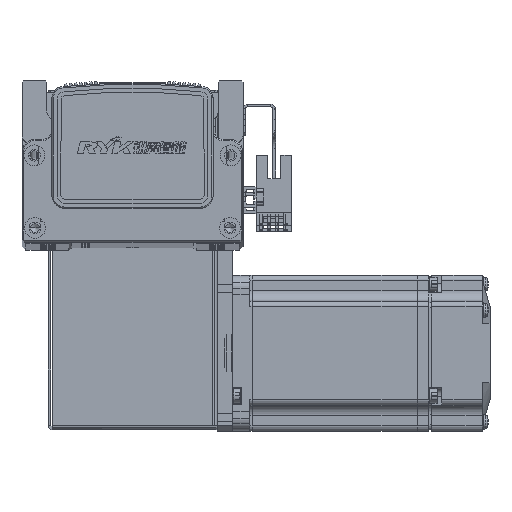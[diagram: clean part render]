
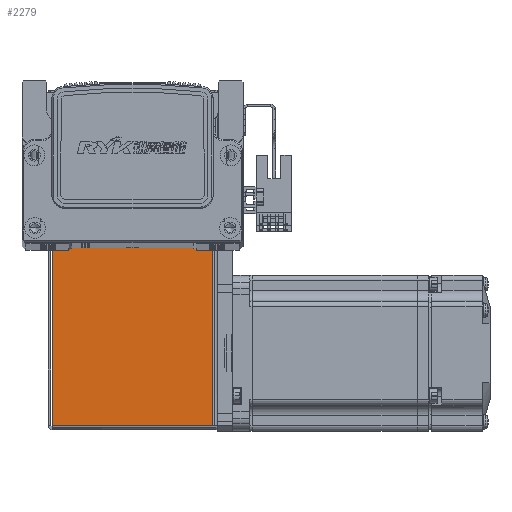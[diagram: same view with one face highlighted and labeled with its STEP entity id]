
A CAD part, top view. The second image highlights one B-rep face of the part: STEP entity #2279.
In plain terms, the highlighted planar face has unit normal (0, 0, 1).
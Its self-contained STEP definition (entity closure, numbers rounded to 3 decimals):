
#2279 = ADVANCED_FACE ( 'NONE', ( #64909 ), #6015, .F. ) ;
#6007 = DIRECTION ( 'NONE',  ( 0., 0., -1. ) ) ;
#6015 = PLANE ( 'NONE',  #68529 ) ;
#6019 = CARTESIAN_POINT ( 'NONE',  ( 0., 0., 35. ) ) ;
#6061 = DIRECTION ( 'NONE',  ( -1., 0., 0. ) ) ;
#29574 = EDGE_LOOP ( 'NONE', ( #75264, #75249, #75371, #75311 ) ) ;
#41227 = EDGE_CURVE ( 'NONE', #55133, #54935, #45739, .T. ) ;
#41283 = EDGE_CURVE ( 'NONE', #55133, #55019, #45820, .T. ) ;
#41302 = EDGE_CURVE ( 'NONE', #55019, #54968, #45811, .T. ) ;
#41309 = EDGE_CURVE ( 'NONE', #54935, #54968, #45804, .T. ) ;
#45739 = LINE ( 'NONE', #55816, #45775 ) ;
#45775 = VECTOR ( 'NONE', #55875, 1000. ) ;
#45781 = VECTOR ( 'NONE', #55984, 1000. ) ;
#45804 = LINE ( 'NONE', #56028, #45829 ) ;
#45811 = LINE ( 'NONE', #56064, #45822 ) ;
#45820 = LINE ( 'NONE', #55900, #45781 ) ;
#45822 = VECTOR ( 'NONE', #56061, 1000. ) ;
#45829 = VECTOR ( 'NONE', #55995, 1000. ) ;
#54935 = VERTEX_POINT ( 'NONE', #73218 ) ;
#54968 = VERTEX_POINT ( 'NONE', #73250 ) ;
#55019 = VERTEX_POINT ( 'NONE', #73312 ) ;
#55133 = VERTEX_POINT ( 'NONE', #73364 ) ;
#55816 = CARTESIAN_POINT ( 'NONE',  ( 30.763, 0.737, 35. ) ) ;
#55875 = DIRECTION ( 'NONE',  ( 0., 1., 0. ) ) ;
#55900 = CARTESIAN_POINT ( 'NONE',  ( -32.5, 0.737, 35. ) ) ;
#55984 = DIRECTION ( 'NONE',  ( -1., 0., 0. ) ) ;
#55995 = DIRECTION ( 'NONE',  ( -1., 0., 0. ) ) ;
#56028 = CARTESIAN_POINT ( 'NONE',  ( 0., 72.5, 35. ) ) ;
#56061 = DIRECTION ( 'NONE',  ( 0., 1., 0. ) ) ;
#56064 = CARTESIAN_POINT ( 'NONE',  ( -30.793, 0., 35. ) ) ;
#64909 = FACE_OUTER_BOUND ( 'NONE', #29574, .T. ) ;
#68529 = AXIS2_PLACEMENT_3D ( 'NONE', #6019, #6007, #6061 ) ;
#73218 = CARTESIAN_POINT ( 'NONE',  ( 30.763, 72.5, 35. ) ) ;
#73250 = CARTESIAN_POINT ( 'NONE',  ( -30.793, 72.5, 35. ) ) ;
#73312 = CARTESIAN_POINT ( 'NONE',  ( -30.793, 0.737, 35. ) ) ;
#73364 = CARTESIAN_POINT ( 'NONE',  ( 30.763, 0.737, 35. ) ) ;
#75249 = ORIENTED_EDGE ( 'NONE', *, *, #41309, .T. ) ;
#75264 = ORIENTED_EDGE ( 'NONE', *, *, #41227, .T. ) ;
#75311 = ORIENTED_EDGE ( 'NONE', *, *, #41283, .F. ) ;
#75371 = ORIENTED_EDGE ( 'NONE', *, *, #41302, .F. ) ;
